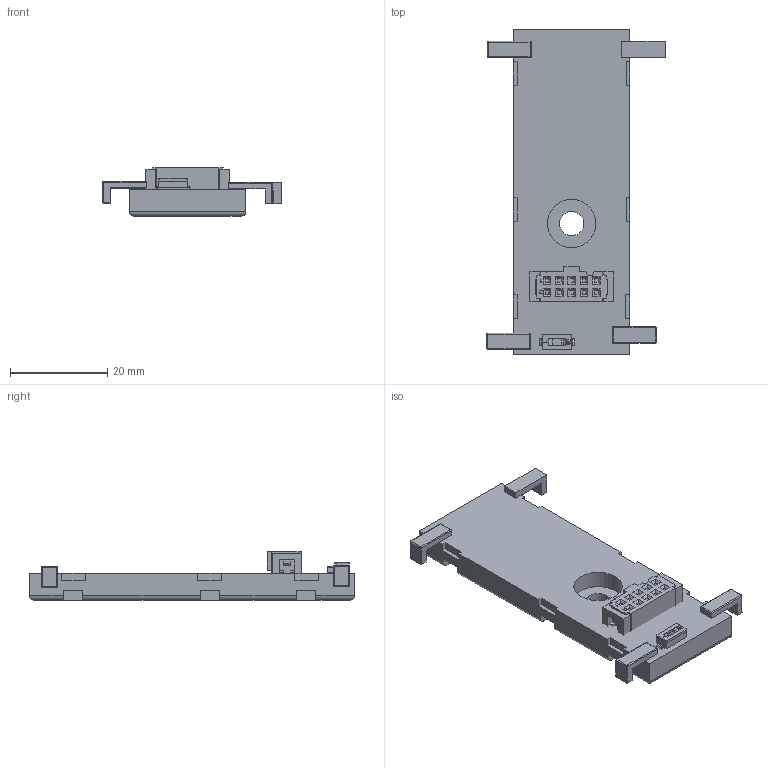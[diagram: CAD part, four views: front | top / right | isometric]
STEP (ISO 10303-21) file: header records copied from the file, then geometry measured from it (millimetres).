
FILE_DESCRIPTION(/* description */ ('FreeCAD Model'),/* implementation_level */ '2;1');
FILE_NAME(/* name */ 'C:\Users\Zambolin\Desktop\PRODOTTI\Z-PC-DIN\3d\Z-PC-DINAL1-35.stp',/* time_stamp */ '2019-11-05T10:03:30+01:00',/* author */ ('zambolin'),/* organization */ (''),/* preprocessor_version */ 'ST-DEVELOPER v18',/* originating_system */ 'Autodesk Inventor 2020',/* authorisation */ 'Unknown');
FILE_SCHEMA (('AUTOMOTIVE_DESIGN { 1 0 10303 214 3 1 1 }'));
Length unit declared in the file: millimetre
Products named in the file (10): Z-PC-DINAL1-35; 10514; #18259; Cut018; Fillet003; #18262; #18263; Fillet002; 43613_01; 43613_02
Assembly tree (9 placements, depth 2):
  Z-PC-DINAL1-35
    10514
    #18259
    Cut018
    Fillet003
    #18262
    #18263
    Fillet002
    43613_01
    43613_02
Bounding box: 36.77 x 67 x 10 mm (x, y, z)
Volume: 9680.6 mm3; surface area: 6072.8 mm2
Topology: 9 solids, 9 shells, 572 faces, 1535 edges, 978 vertices
Faces by surface type: plane 486, cylinder 60, bspline 14, sphere 12
Full cylindrical faces by diameter (mm): 5 x1, 10 x1
Entity records: 18383 total; most frequent: CARTESIAN_POINT 3610, ORIENTED_EDGE 3046, DIRECTION 2707, EDGE_CURVE 1523, LINE 1335, VECTOR 1335, VERTEX_POINT 978, AXIS2_PLACEMENT_3D 686
